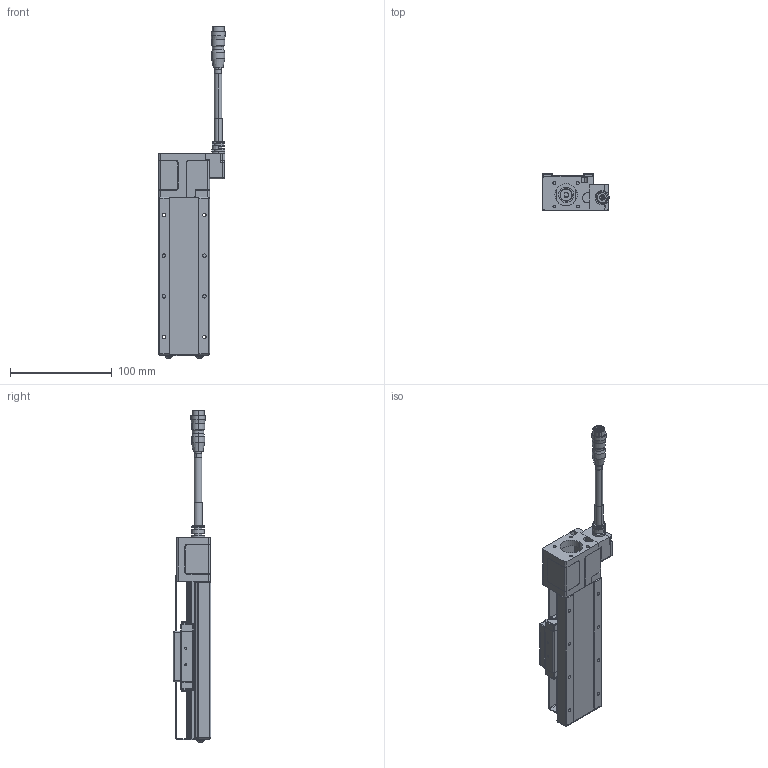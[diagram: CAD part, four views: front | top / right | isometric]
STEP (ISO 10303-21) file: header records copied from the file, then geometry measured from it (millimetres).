
FILE_DESCRIPTION (( 'STEP AP203' ), '1' );
FILE_NAME ('CXC5075-S2?N(42框無馬達).', '2024-01-05T02:59:51', ( '' ), ( '' ), 'SwSTEP 2.0', 'SolidWorks 2019', '' );
FILE_SCHEMA (( 'CONFIG_CONTROL_DESIGN' ));
Length unit declared in the file: millimetre
Products named in the file (9): SG02B004_SCM435(化鎳); Group2^CXN5075-S2?N(42框無馬達)_defeature_GMT; HR10A-10J-12P_帶線示意; CXC5075-S2?N(42框無馬達); SD04B006_SD04B006-SCM435(化鎳); CXC5075-S2OPAN-303_50; CXC50-102-10; SC03B008_SUS304(鍍鋅黑); Group1^CXN5075-S2?N(42框無馬達)_defeature_GMT
Assembly tree (14 placements, depth 2):
  CXC5075-S2?N(42框無馬達)
    Group1^CXN5075-S2?N(42框無馬達)_defeature_GMT
    Group2^CXN5075-S2?N(42框無馬達)_defeature_GMT
    CXC5075-S2OPAN-303_50
    CXC50-102-10  x2
    SG02B004_SCM435(化鎳)  x2
    SD04B006_SD04B006-SCM435(化鎳)  x2
    SC03B008_SUS304(鍍鋅黑)  x4
    HR10A-10J-12P_帶線示意
Bounding box: 65.5 x 37 x 326.7 mm (x, y, z)
Volume: 47604.3 mm3; surface area: 100882.7 mm2
Topology: 15 solids, 20 shells, 5896 faces, 15103 edges, 9257 vertices
Faces by surface type: plane 2691, bspline 1343, cylinder 1257, cone 221, torus 212, sphere 172
Entity records: 189772 total; most frequent: CARTESIAN_POINT 62460, ORIENTED_EDGE 28684, DIRECTION 21936, EDGE_CURVE 14342, VERTEX_POINT 8934, VECTOR 7532, LINE 7532, AXIS2_PLACEMENT_3D 7202
